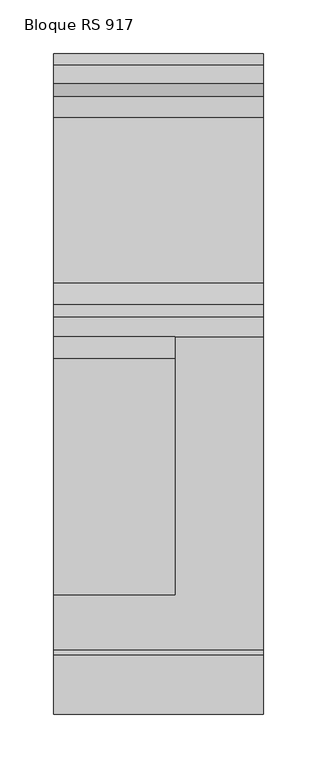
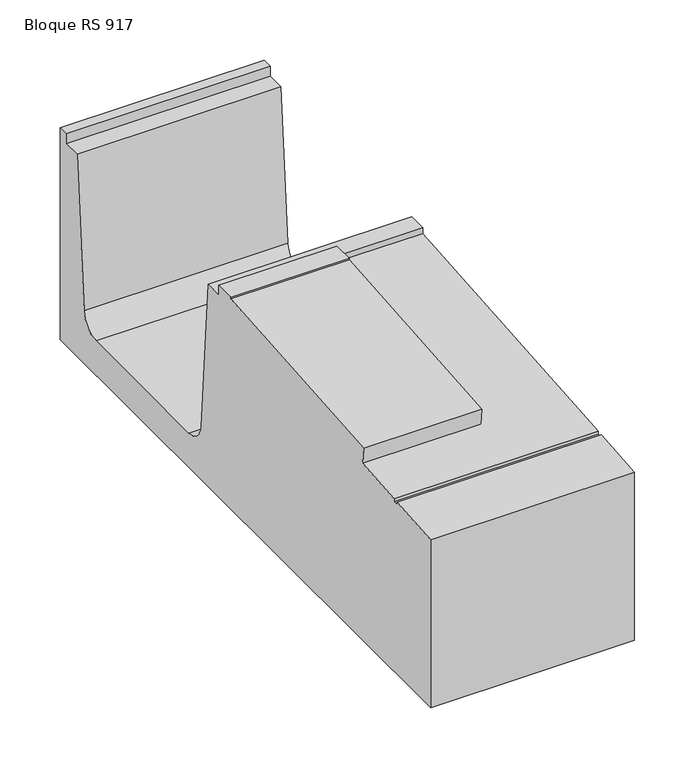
"""IFC4 building model written with IfcOpenShell, lengths in millimetres: proxy geometry, ROSA GRES_RS 917 : Bloque RS 917."""

from ifc_helpers import new_model, si_unit, frame, origin, place, context, project, spatial, polyline, circle_curve, source, transform, mapped, element, save
from ifc_brep_helpers import plane_surface, revolved_surface, advanced_brep


def bloque_rs_917_cf75d2b8(model_context):
    return source(origin(), model_context, "Body", "AdvancedBrep", [
        advanced_brep(
        [(0.0, 12.84, 171.9333029), (0.0, 67.84, 176.4100471), (0.0, 67.84, 173.8170239), (0.0, 72.84, 173.8170239), (0.0, 72.84, 176.8170239), (0.0, 125.1210611, 181.0724591), (0.0, 123.84, 196.8112099), (0.0, 343.84, 214.7181867), (0.0, 343.84, 216.3460936), (0.0, 363.84, 216.3460936), (0.0, 363.84, 206.3460936), (0.0, 381.84, 206.3460936), (0.0, 393.5522462, 55.2086635), (0.0, 413.4924621, 36.7539108), (0.0, 567.1875379, 36.7539108), (0.0, 587.1277538, 55.2086635), (0.0, 598.84, 206.3460936), (0.0, 616.84, 206.3460936), (0.0, 616.84, 216.3460936), (0.0, 626.84, 216.3460936), (0.0, 626.84, 1.7539108), (0.0, 12.84, 1.7539108), (195.0, 12.84, 171.9333029), (195.0, 12.84, 1.7539108), (195.0, 626.84, 1.7539108), (195.0, 626.84, 216.3460936), (195.0, 616.84, 216.3460936), (195.0, 616.84, 206.3460936), (195.0, 598.84, 206.3460936), (195.0, 587.1277538, 55.2086635), (195.0, 567.1875379, 36.7539108), (195.0, 413.4924621, 36.7539108), (195.0, 393.5522462, 55.2086635), (195.0, 381.84, 206.3460936), (195.0, 363.84, 206.3460936), (195.0, 363.84, 200.5030704), (195.0, 72.84, 176.8170239), (195.0, 72.84, 173.8170239), (195.0, 67.84, 173.8170239), (195.0, 67.84, 176.4100471), (113.0, 363.84, 200.5030704), (113.0, 125.1210611, 181.0724591), (113.0, 363.84, 206.3460936), (113.0, 123.84, 196.8112099), (113.0, 363.84, 216.3460936), (113.0, 343.84, 216.3460936), (113.0, 343.84, 214.7181867)],
        [
            (0, 1),
            (1, 2),
            (2, 3),
            (3, 4),
            (4, 5),
            (5, 6),
            (6, 7),
            (7, 8),
            (8, 9),
            (9, 10),
            (10, 11),
            (11, 12),
            (12, 13, circle_curve(frame((0.0, 413.4924621, 56.7539108), z_axis=(1.0, 0.0, 0.0), x_axis=(0.0, 1.0, 0.0)), 20.0)),
            (13, 14),
            (14, 15, circle_curve(frame((0.0, 567.1875379, 56.7539108), z_axis=(1.0, 0.0, 0.0), x_axis=(0.0, 1.0, 0.0)), 20.0)),
            (15, 16),
            (16, 17),
            (17, 18),
            (18, 19),
            (19, 20),
            (20, 21),
            (21, 0),
            (22, 23),
            (23, 24),
            (24, 25),
            (25, 26),
            (26, 27),
            (27, 28),
            (28, 29),
            (29, 30, circle_curve(frame((195.0, 567.1875379, 56.7539108), z_axis=(-1.0, 0.0, 0.0), x_axis=(0.0, 1.0, 0.0)), 20.0)),
            (30, 31),
            (31, 32, circle_curve(frame((195.0, 413.4924621, 56.7539108), z_axis=(-1.0, 0.0, 0.0), x_axis=(0.0, 1.0, 0.0)), 20.0)),
            (32, 33),
            (33, 34),
            (34, 35),
            (35, 36),
            (36, 37),
            (37, 38),
            (38, 39),
            (39, 22),
            (0, 22),
            (39, 1),
            (38, 2),
            (37, 3),
            (36, 4),
            (35, 40),
            (40, 41),
            (41, 5),
            (34, 42),
            (42, 40),
            (10, 42),
            (33, 11),
            (32, 12),
            (31, 13),
            (30, 14),
            (29, 15),
            (28, 16),
            (27, 17),
            (26, 18),
            (25, 19),
            (24, 20),
            (23, 21),
            (43, 41),
            (42, 44),
            (44, 45),
            (45, 46),
            (46, 43),
            (43, 6),
            (9, 44),
            (8, 45),
            (7, 46),
        ],
        [
            plane_surface(frame((0.0, 0.0, 0.0), z_axis=(-1.0, 0.0, 0.0), x_axis=(0.0, 0.0, 1.0))),
            plane_surface(frame((195.0, 0.0, 0.0), z_axis=(1.0, 0.0, 0.0), x_axis=(0.0, 0.0, 1.0))),
            plane_surface(frame((0.0, 12.84, 171.9333029), z_axis=(0.0, -0.0811270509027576, 0.9967037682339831), x_axis=(1.0, 0.0, 0.0))),
            plane_surface(frame((0.0, 67.84, 176.4100471), z_axis=(0.0, 1.0, 0.0), x_axis=(1.0, 0.0, 0.0))),
            plane_surface(frame((0.0, 67.84, 173.8170239), z_axis=(0.0, 0.0, 1.0), x_axis=(1.0, 0.0, 0.0))),
            plane_surface(frame((0.0, 72.84, 173.8170239), z_axis=(0.0, -1.0, 0.0), x_axis=(1.0, 0.0, 0.0))),
            plane_surface(frame((0.0, 72.84, 176.8170239), z_axis=(0.0, -0.08112705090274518, 0.9967037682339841), x_axis=(1.0, 0.0, 0.0))),
            plane_surface(frame((0.0, 363.84, 200.5030704), z_axis=(0.0, -1.0, 0.0), x_axis=(1.0, 0.0, 0.0))),
            plane_surface(frame((0.0, 363.84, 206.3460936), z_axis=(0.0, 0.0, 1.0), x_axis=(1.0, 0.0, 0.0))),
            plane_surface(frame((0.0, 381.84, 206.3460936), z_axis=(0.0, 0.9970107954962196, 0.07726236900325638), x_axis=(1.0, 0.0, 0.0))),
            revolved_surface(polyline([(195.0, 433.4924621, 56.7539108), (0.0, 433.4924621, 56.7539108)]), (0.0, 413.4924621, 56.7539108), (1.0, 0.0, 0.0)),
            plane_surface(frame((0.0, 413.4924621, 36.7539108), z_axis=(0.0, 0.0, 1.0), x_axis=(1.0, 0.0, 0.0))),
            revolved_surface(polyline([(195.0, 587.1875379, 56.7539108), (0.0, 587.1875379, 56.7539108)]), (0.0, 567.1875379, 56.7539108), (1.0, 0.0, 0.0)),
            plane_surface(frame((0.0, 587.1277538, 55.2086635), z_axis=(0.0, -0.99701079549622, 0.07726236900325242), x_axis=(1.0, 0.0, 0.0))),
            plane_surface(frame((0.0, 598.84, 206.3460936), z_axis=(0.0, 0.0, 1.0), x_axis=(1.0, 0.0, 0.0))),
            plane_surface(frame((0.0, 616.84, 206.3460936), z_axis=(0.0, -1.0, 0.0), x_axis=(1.0, 0.0, 0.0))),
            plane_surface(frame((0.0, 616.84, 216.3460936), z_axis=(0.0, 0.0, 1.0), x_axis=(1.0, 0.0, 0.0))),
            plane_surface(frame((0.0, 626.84, 216.3460936), z_axis=(0.0, 1.0, 0.0), x_axis=(1.0, 0.0, 0.0))),
            plane_surface(frame((0.0, 626.84, 1.7539108), z_axis=(0.0, 0.0, -1.0), x_axis=(1.0, 0.0, 0.0))),
            plane_surface(frame((0.0, 12.84, 1.7539108), z_axis=(0.0, -1.0, 0.0), x_axis=(1.0, 0.0, 0.0))),
            plane_surface(frame((113.0, 0.0, 0.0), z_axis=(1.0, 0.0, 0.0), x_axis=(0.0, 0.0, 1.0))),
            plane_surface(frame((113.0, 123.84, 196.8112099), z_axis=(0.0, -0.9967037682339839, -0.08112705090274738), x_axis=(-1.0, 0.0, 0.0))),
            plane_surface(frame((113.0, 363.84, 200.5030704), z_axis=(0.0, 1.0, 0.0), x_axis=(-1.0, 0.0, 0.0))),
            plane_surface(frame((113.0, 363.84, 216.3460936), z_axis=(0.0, 0.0, 1.0), x_axis=(-1.0, 0.0, 0.0))),
            plane_surface(frame((113.0, 343.84, 216.3460936), z_axis=(0.0, -1.0, 0.0), x_axis=(-1.0, 0.0, 0.0))),
            plane_surface(frame((113.0, 343.84, 214.7181867), z_axis=(0.0, -0.08112705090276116, 0.9967037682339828), x_axis=(-1.0, 0.0, 0.0))),
        ],
        [
            (0, [[1, 2, 3, 4, 5, 6, 7, 8, 9, 10, 11, 12, 13, 14, 15, 16, 17, 18, 19, 20, 21, 22]]),
            (1, [[23, 24, 25, 26, 27, 28, 29, 30, 31, 32, 33, 34, 35, 36, 37, 38, 39, 40]]),
            (2, [[-1, 41, -40, 42]]),
            (3, [[-2, -42, -39, 43]]),
            (4, [[-3, -43, -38, 44]]),
            (5, [[-4, -44, -37, 45]]),
            (6, [[-36, 46, 47, 48, -5, -45]]),
            (7, [[-35, 49, 50, -46]]),
            (8, [[-11, 51, -49, -34, 52]]),
            (9, [[-12, -52, -33, 53]]),
            (10, [[-13, -53, -32, 54]]),
            (11, [[-14, -54, -31, 55]]),
            (12, [[-15, -55, -30, 56]]),
            (13, [[-16, -56, -29, 57]]),
            (14, [[-17, -57, -28, 58]]),
            (15, [[-18, -58, -27, 59]]),
            (16, [[-19, -59, -26, 60]]),
            (17, [[-20, -60, -25, 61]]),
            (18, [[-21, -61, -24, 62]]),
            (19, [[-22, -62, -23, -41]]),
            (20, [[63, -47, -50, 64, 65, 66, 67]]),
            (21, [[-63, 68, -6, -48]]),
            (22, [[69, -64, -51, -10]]),
            (23, [[-65, -69, -9, 70]]),
            (24, [[-66, -70, -8, 71]]),
            (25, [[-67, -71, -7, -68]]),
        ],
    ),
    ])


if __name__ == "__main__":
    model = new_model("IFC4")
    model_context = context("Model", 3, world=origin())
    ifc_project = project(units=[si_unit("LENGTHUNIT", "METRE", prefix="MILLI")], contexts=[model_context])
    site = spatial("IfcSite", under=ifc_project)
    building = spatial("IfcBuilding", under=site)
    placement = place(None, origin())
    bloque_rs_917_shape = bloque_rs_917_cf75d2b8(model_context)
    element("IfcBuildingElementProxy", 1, Name="ROSA GRES_RS 917 : Bloque RS 917", ObjectType="ROSA GRES_RS 917 : Bloque RS 917", at=placement, inside=building, context=model_context, shape_type="MappedRepresentation", body=[
        mapped(bloque_rs_917_shape, transform((0.0, 0.0, 0.0), x_axis=(1.0, 0.0, 0.0), y_axis=(0.0, 1.0, 0.0), z_axis=(0.0, 0.0, 1.0))),
    ])
    save(model, "model.ifc")
